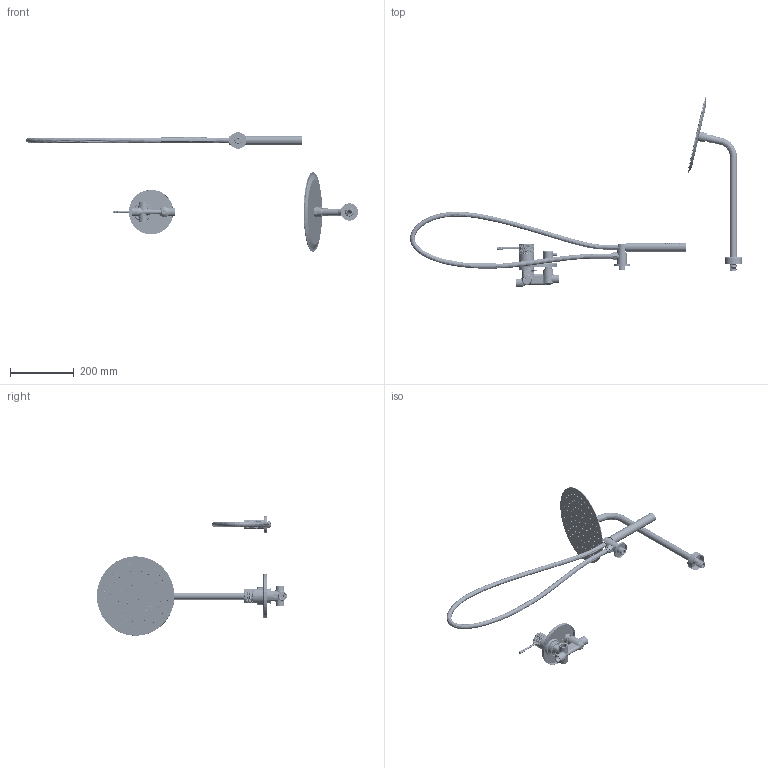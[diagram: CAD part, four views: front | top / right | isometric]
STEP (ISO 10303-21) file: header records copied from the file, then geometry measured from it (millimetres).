
FILE_DESCRIPTION((''),'2;1');
FILE_NAME('1386665_ASM_ASM','2022-11-30T',('Administrator'),(''),'PRO/ENGINEER BY PARAMETRIC TECHNOLOGY CORPORATION, 2015240','PRO/ENGINEER BY PARAMETRIC TECHNOLOGY CORPORATION, 2015240','');
FILE_SCHEMA(('CONFIG_CONTROL_DESIGN'));
Products named in the file (46): 513811-0122_1; 513811-0322_1; 61511942_1; 513812-0200_1; 60701541_1; 518084-0322_1; 61812000_1; 60700544_1; 513822-0300_1; 61822500_1; 61609942_1; 61610942_1; 61822500_ASM_2_ASM; 61505742_1; 7609314-0100_1; 7609313-0200_1; 61109212_1; 7609314-0300_1; 60931400_ASM_1_ASM; 61100112_1; 61800800_1; 7609072-0100_1; 61102812_1; 7609072-0300_1; 60907200_ASM_1_ASM; 61801641_1; 61802000_1; 7603024-0100_1; 7603024-0200_1; 7603024-0300_1; 7603024-0400_1; 7603024-0500_1; 7603024-0600_1; 7603024-0700_1; 60302400_ASM_1_ASM; 61300300_1; 61501742_1; 61701500_11; 60100600_5; 61800900_2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
Assembly tree (45 placements, depth 4):
  1386665_ASM_ASM
    1386600_ASM_14_ASM
      513811-0122_1
      513811-0322_1
      61511942_1
      513812-0200_1
      60701541_1
      518084-0322_1
      61812000_1
      60700544_1
      513822-0300_1
      61822500_ASM_2_ASM
        61822500_1
        61609942_1
        61610942_1
      61505742_1
      60931400_ASM_1_ASM
        7609314-0100_1
        7609313-0200_1
        61109212_1
        7609314-0300_1
      61100112_1
      61800800_1
      60907200_ASM_1_ASM
        7609072-0100_1
        61102812_1
        7609072-0300_1
      61801641_1
      61802000_1
      60302400_ASM_1_ASM
        7603024-0100_1
        7603024-0200_1
        7603024-0300_1
        7603024-0400_1
        7603024-0500_1
        7603024-0600_1
        7603024-0700_1
      61300300_1
      61501742_1
      61701500_11
      60100600_5
      61800900_ASM_2_ASM
        61800900_2
        09-S0_2
      7656003-0100_1
      60188200_1
Bounding box: 1043.61 x 597.93 x 376 mm (x, y, z)
Volume: 999384.2 mm3; surface area: 494778 mm2
Topology: 40 solids, 74 shells, 10692 faces, 23678 edges, 13468 vertices
Faces by surface type: bspline 6184, cylinder 2866, plane 886, torus 504, cone 233, extrusion 9, sphere 6, revolution 4
Entity records: 435619 total; most frequent: CARTESIAN_POINT 251106, ORIENTED_EDGE 47164, EDGE_CURVE 23652, DIRECTION 20554, B_SPLINE_CURVE_WITH_KNOTS 16921, VERTEX_POINT 13468, EDGE_LOOP 11206, FACE_OUTER_BOUND 10692
